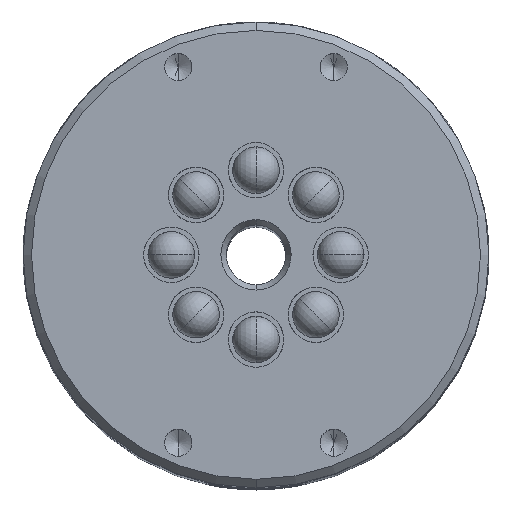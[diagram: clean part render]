
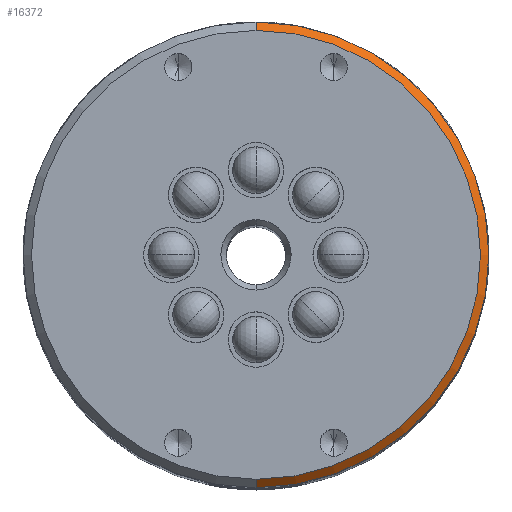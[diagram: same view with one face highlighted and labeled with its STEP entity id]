
A CAD part, top view. The second image highlights one B-rep face of the part: STEP entity #16372.
In plain terms, the highlighted conical face has half-angle 45 degrees and reference radius 43.65 mm.
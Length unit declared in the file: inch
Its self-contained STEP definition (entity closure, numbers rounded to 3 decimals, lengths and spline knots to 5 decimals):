
#655 = EDGE_LOOP ( 'NONE', ( #15024, #15023, #15022, #15021 ) ) ;
#1169 = VERTEX_POINT ( 'NONE', #9991 ) ;
#1318 = CARTESIAN_POINT ( 'NONE',  ( 0., 9.543, 1.7185 ) ) ;
#1322 = LINE ( 'NONE', #1318, #3544 ) ;
#1327 = DIRECTION ( 'NONE',  ( 0., -0.707, 0.707 ) ) ;
#1334 = CARTESIAN_POINT ( 'NONE',  ( 0., 9.543, 0. ) ) ;
#1335 = DIRECTION ( 'NONE',  ( 0., -1., 0. ) ) ;
#1336 = DIRECTION ( 'NONE',  ( 0., 0., 1. ) ) ;
#2000 = LINE ( 'NONE', #2013, #3988 ) ;
#2013 = CARTESIAN_POINT ( 'NONE',  ( 0., 9.543, -1.7185 ) ) ;
#2014 = CARTESIAN_POINT ( 'NONE',  ( 0., 9.605, 0. ) ) ;
#2015 = DIRECTION ( 'NONE',  ( 0., 1., 0. ) ) ;
#2016 = DIRECTION ( 'NONE',  ( 0., 0., 1. ) ) ;
#2021 = DIRECTION ( 'NONE',  ( 0., -0.707, -0.707 ) ) ;
#2532 = AXIS2_PLACEMENT_3D ( 'NONE', #1334, #1335, #1336 ) ;
#3544 = VECTOR ( 'NONE', #1327, 39.37008 ) ;
#3562 = CIRCLE ( 'NONE', #2532, 1.7185 ) ;
#3980 = CIRCLE ( 'NONE', #3986, 1.6565 ) ;
#3986 = AXIS2_PLACEMENT_3D ( 'NONE', #2014, #2015, #2016 ) ;
#3988 = VECTOR ( 'NONE', #2021, 39.37008 ) ;
#9421 = DIRECTION ( 'NONE',  ( 0., 0., -1. ) ) ;
#9422 = CARTESIAN_POINT ( 'NONE',  ( 0., 9.543, 0. ) ) ;
#9423 = FACE_OUTER_BOUND ( 'NONE', #655, .T. ) ;
#9424 = DIRECTION ( 'NONE',  ( 0., -1., 0. ) ) ;
#9606 = CONICAL_SURFACE ( 'NONE', #9607, 1.7185, 0.785 ) ;
#9607 = AXIS2_PLACEMENT_3D ( 'NONE', #9422, #9424, #9421 ) ;
#9645 = VERTEX_POINT ( 'NONE', #10052 ) ;
#9649 = VERTEX_POINT ( 'NONE', #10226 ) ;
#9656 = VERTEX_POINT ( 'NONE', #10148 ) ;
#9991 = CARTESIAN_POINT ( 'NONE',  ( 0., 9.605, 1.6565 ) ) ;
#10052 = CARTESIAN_POINT ( 'NONE',  ( 0., 9.605, -1.6565 ) ) ;
#10148 = CARTESIAN_POINT ( 'NONE',  ( 0., 9.543, -1.7185 ) ) ;
#10226 = CARTESIAN_POINT ( 'NONE',  ( 0., 9.543, 1.7185 ) ) ;
#12445 = EDGE_CURVE ( 'NONE', #1169, #9649, #1322, .T. ) ;
#12449 = EDGE_CURVE ( 'NONE', #9656, #9649, #3562, .T. ) ;
#12597 = EDGE_CURVE ( 'NONE', #1169, #9645, #3980, .T. ) ;
#12599 = EDGE_CURVE ( 'NONE', #9645, #9656, #2000, .T. ) ;
#15021 = ORIENTED_EDGE ( 'NONE', *, *, #12599, .F. ) ;
#15022 = ORIENTED_EDGE ( 'NONE', *, *, #12449, .F. ) ;
#15023 = ORIENTED_EDGE ( 'NONE', *, *, #12445, .T. ) ;
#15024 = ORIENTED_EDGE ( 'NONE', *, *, #12597, .F. ) ;
#16372 = ADVANCED_FACE ( 'NONE', ( #9423 ), #9606, .T. ) ;
